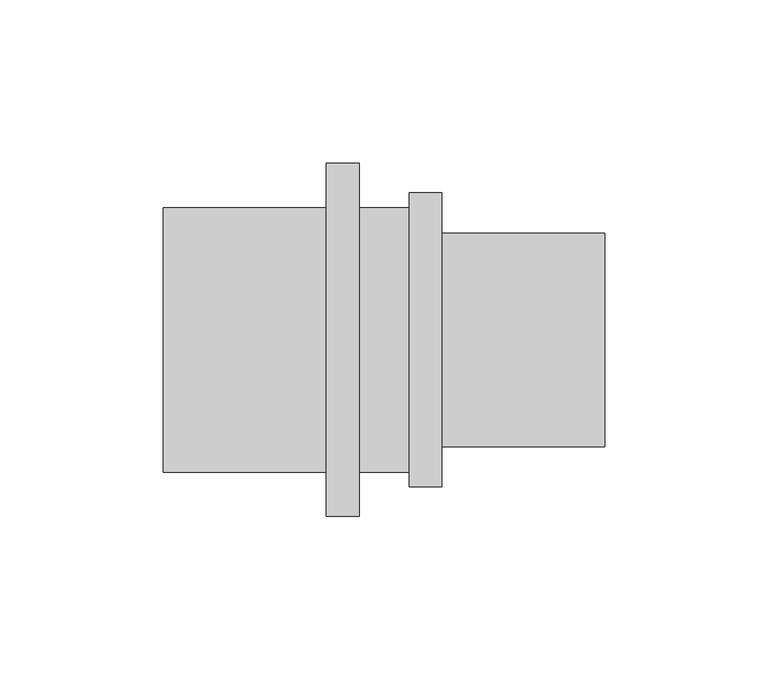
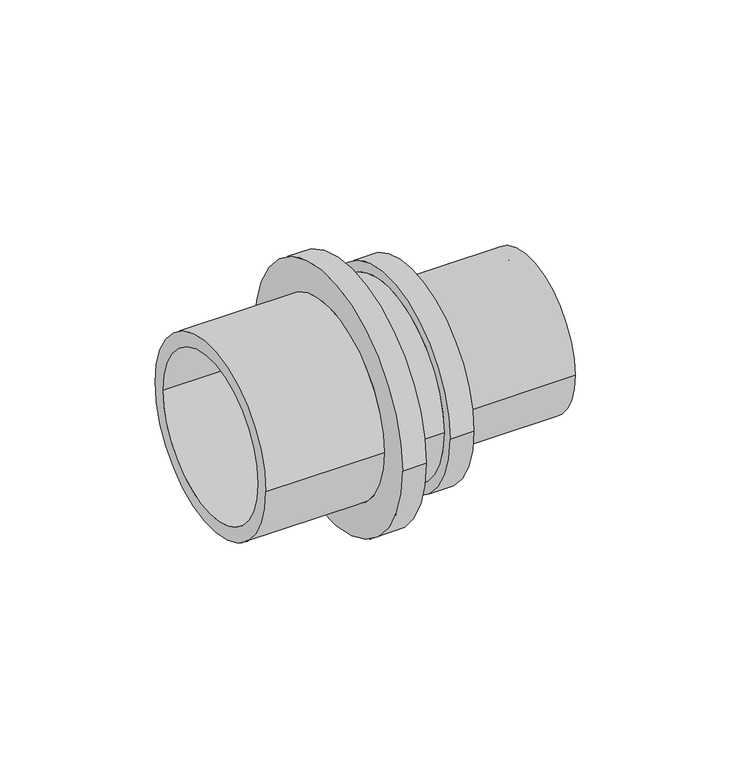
"""IFC4 building model written with IfcOpenShell, lengths in millimetres: pipe fitting geometry, Coupling transistion : C RE SDR11 RX."""

from ifc_helpers import new_model, si_unit, frame, origin, place, context, project, spatial, polyline, circle_curve, source, transform, mapped, element, save
from ifc_brep_helpers import plane_surface, cylinder_surface, revolved_surface, advanced_brep


def pipe_fitting_98be0705(model_context):
    return source(origin(), model_context, "Body", "AdvancedBrep", [
        advanced_brep(
        [(-17.1, 40.5, 0.0), (-17.1, -40.5, 0.0), (-67.0, -40.5, 0.0), (-67.0, 40.5, 0.0), (-7.1, 54.0, 0.0), (-7.1, -54.0, 0.0), (-17.1, -54.0, 0.0), (-17.1, 54.0, 0.0), (8.2, 40.5, 0.0), (8.2, -40.5, 0.0), (-7.1, -40.5, 0.0), (-7.1, 40.5, 0.0), (18.2, 45.0, 0.0), (18.2, -45.0, 0.0), (8.2, -45.0, 0.0), (8.2, 45.0, 0.0), (68.0, 32.7, 0.0), (68.0, -32.7, 0.0), (18.2, -32.7, 0.0), (18.2, 32.7, 0.0), (0.0, 27.0, 0.0), (0.0, -27.0, 0.0), (68.0, -27.0, 0.0), (68.0, 27.0, 0.0), (-67.0, 34.5, 0.0), (-67.0, -34.5, 0.0), (0.0, -34.5, 0.0), (0.0, 34.5, 0.0)],
        [
            (0, 1, circle_curve(frame((-17.1, 0.0, 0.0), z_axis=(-1.0, 0.0, 0.0), x_axis=(0.0, -1.0, 0.0)), 40.5)),
            (1, 2),
            (2, 3, circle_curve(frame((-67.0, 0.0, 0.0), z_axis=(1.0, 0.0, 0.0), x_axis=(0.0, -1.0, 0.0)), 40.5)),
            (3, 0),
            (4, 5, circle_curve(frame((-7.1, 0.0, 0.0), z_axis=(-1.0, 0.0, 0.0), x_axis=(0.0, -1.0, 0.0)), 54.0)),
            (5, 6),
            (6, 7, circle_curve(frame((-17.1, 0.0, 0.0), z_axis=(1.0, 0.0, 0.0), x_axis=(0.0, -1.0, 0.0)), 54.0)),
            (7, 4),
            (8, 9, circle_curve(frame((8.2, 0.0, 0.0), z_axis=(-1.0, 0.0, 0.0), x_axis=(0.0, -1.0, 0.0)), 40.5)),
            (9, 10),
            (10, 11, circle_curve(frame((-7.1, 0.0, 0.0), z_axis=(1.0, 0.0, 0.0), x_axis=(0.0, -1.0, 0.0)), 40.5)),
            (11, 8),
            (12, 13, circle_curve(frame((18.2, 0.0, 0.0), z_axis=(-1.0, 0.0, 0.0), x_axis=(0.0, -1.0, 0.0)), 45.0)),
            (13, 14),
            (14, 15, circle_curve(frame((8.2, 0.0, 0.0), z_axis=(1.0, 0.0, 0.0), x_axis=(0.0, -1.0, 0.0)), 45.0)),
            (15, 12),
            (16, 17, circle_curve(frame((68.0, 0.0, 0.0), z_axis=(-1.0, 0.0, 0.0), x_axis=(0.0, -1.0, 0.0)), 32.7)),
            (17, 18),
            (18, 19, circle_curve(frame((18.2, 0.0, 0.0), z_axis=(1.0, 0.0, 0.0), x_axis=(0.0, -1.0, 0.0)), 32.7)),
            (19, 16),
            (20, 21, circle_curve(frame((0.0, 0.0, 0.0), z_axis=(-1.0, 0.0, 0.0), x_axis=(0.0, -1.0, 0.0)), 27.0)),
            (21, 22),
            (22, 23, circle_curve(frame((68.0, 0.0, 0.0), z_axis=(1.0, 0.0, 0.0), x_axis=(0.0, -1.0, 0.0)), 27.0)),
            (23, 20),
            (24, 25, circle_curve(frame((-67.0, 0.0, 0.0), z_axis=(-1.0, 0.0, 0.0), x_axis=(0.0, -1.0, 0.0)), 34.5)),
            (25, 26),
            (26, 27, circle_curve(frame((0.0, 0.0, 0.0), z_axis=(1.0, 0.0, 0.0), x_axis=(0.0, -1.0, 0.0)), 34.5)),
            (27, 24),
            (2, 3, circle_curve(frame((-67.0, 0.0, 0.0), z_axis=(-1.0, 0.0, 0.0), x_axis=(0.0, 1.0, 0.0)), 40.5)),
            (24, 25, circle_curve(frame((-67.0, 0.0, 0.0), z_axis=(1.0, 0.0, 0.0), x_axis=(0.0, 1.0, 0.0)), 34.5)),
            (1, 0, circle_curve(frame((-17.1, 0.0, 0.0), z_axis=(-1.0, 0.0, 0.0), x_axis=(0.0, 1.0, 0.0)), 40.5)),
            (6, 7, circle_curve(frame((-17.1, 0.0, 0.0), z_axis=(-1.0, 0.0, 0.0), x_axis=(0.0, 1.0, 0.0)), 54.0)),
            (5, 4, circle_curve(frame((-7.1, 0.0, 0.0), z_axis=(-1.0, 0.0, 0.0), x_axis=(0.0, 1.0, 0.0)), 54.0)),
            (10, 11, circle_curve(frame((-7.1, 0.0, 0.0), z_axis=(-1.0, 0.0, 0.0), x_axis=(0.0, 1.0, 0.0)), 40.5)),
            (9, 8, circle_curve(frame((8.2, 0.0, 0.0), z_axis=(-1.0, 0.0, 0.0), x_axis=(0.0, 1.0, 0.0)), 40.5)),
            (14, 15, circle_curve(frame((8.2, 0.0, 0.0), z_axis=(-1.0, 0.0, 0.0), x_axis=(0.0, 1.0, 0.0)), 45.0)),
            (13, 12, circle_curve(frame((18.2, 0.0, 0.0), z_axis=(-1.0, 0.0, 0.0), x_axis=(0.0, 1.0, 0.0)), 45.0)),
            (18, 19, circle_curve(frame((18.2, 0.0, 0.0), z_axis=(-1.0, 0.0, 0.0), x_axis=(0.0, 1.0, 0.0)), 32.7)),
            (17, 16, circle_curve(frame((68.0, 0.0, 0.0), z_axis=(-1.0, 0.0, 0.0), x_axis=(0.0, 1.0, 0.0)), 32.7)),
            (22, 23, circle_curve(frame((68.0, 0.0, 0.0), z_axis=(-1.0, 0.0, 0.0), x_axis=(0.0, 1.0, 0.0)), 27.0)),
            (21, 20, circle_curve(frame((0.0, 0.0, 0.0), z_axis=(-1.0, 0.0, 0.0), x_axis=(0.0, 1.0, 0.0)), 27.0)),
            (26, 27, circle_curve(frame((0.0, 0.0, 0.0), z_axis=(-1.0, 0.0, 0.0), x_axis=(0.0, 1.0, 0.0)), 34.5)),
        ],
        [
            cylinder_surface(frame((0.0, 0.0, 0.0), z_axis=(1.0, 0.0, 0.0), x_axis=(0.0, -1.0, 0.0)), 40.5),
            cylinder_surface(frame((0.0, 0.0, 0.0), z_axis=(1.0, 0.0, 0.0), x_axis=(0.0, -1.0, 0.0)), 54.0),
            cylinder_surface(frame((0.0, 0.0, 0.0), z_axis=(1.0, 0.0, 0.0), x_axis=(0.0, -1.0, 0.0)), 45.0),
            cylinder_surface(frame((0.0, 0.0, 0.0), z_axis=(1.0, 0.0, 0.0), x_axis=(0.0, -1.0, 0.0)), 32.7),
            revolved_surface(polyline([(68.0, -27.0, 0.0), (0.0, -27.0, 0.0)]), (0.0, 0.0, 0.0), (1.0, 0.0, 0.0)),
            revolved_surface(polyline([(0.0, -34.5, 0.0), (-67.0, -34.5, 0.0)]), (0.0, 0.0, 0.0), (1.0, 0.0, 0.0)),
            plane_surface(frame((-67.0, 0.0, 0.0), z_axis=(-1.0, 0.0, 0.0), x_axis=(0.0, 1.0, 0.0))),
            cylinder_surface(frame((0.0, 0.0, 0.0), z_axis=(1.0, 0.0, 0.0), x_axis=(0.0, 1.0, 0.0)), 40.5),
            plane_surface(frame((-17.1, 0.0, 0.0), z_axis=(-1.0, 0.0, 0.0), x_axis=(0.0, 1.0, 0.0))),
            cylinder_surface(frame((0.0, 0.0, 0.0), z_axis=(1.0, 0.0, 0.0), x_axis=(0.0, 1.0, 0.0)), 54.0),
            plane_surface(frame((-7.1, 0.0, 0.0), z_axis=(1.0, 0.0, 0.0), x_axis=(0.0, 1.0, 0.0))),
            plane_surface(frame((8.2, 0.0, 0.0), z_axis=(-1.0, 0.0, 0.0), x_axis=(0.0, 1.0, 0.0))),
            cylinder_surface(frame((0.0, 0.0, 0.0), z_axis=(1.0, 0.0, 0.0), x_axis=(0.0, 1.0, 0.0)), 45.0),
            plane_surface(frame((18.2, 0.0, 0.0), z_axis=(1.0, 0.0, 0.0), x_axis=(0.0, 1.0, 0.0))),
            cylinder_surface(frame((0.0, 0.0, 0.0), z_axis=(1.0, 0.0, 0.0), x_axis=(0.0, 1.0, 0.0)), 32.7),
            plane_surface(frame((68.0, 0.0, 0.0), z_axis=(1.0, 0.0, 0.0), x_axis=(0.0, 1.0, 0.0))),
            revolved_surface(polyline([(68.0, 27.0, 0.0), (0.0, 27.0, 0.0)]), (0.0, 0.0, 0.0), (1.0, 0.0, 0.0)),
            plane_surface(frame((0.0, 0.0, 0.0), z_axis=(-1.0, 0.0, 0.0), x_axis=(0.0, 1.0, 0.0))),
            revolved_surface(polyline([(0.0, 34.5, 0.0), (-67.0, 34.5, 0.0)]), (0.0, 0.0, 0.0), (1.0, 0.0, 0.0)),
        ],
        [
            (0, [[1, 2, 3, 4]]),
            (1, [[5, 6, 7, 8]]),
            (0, [[9, 10, 11, 12]]),
            (2, [[13, 14, 15, 16]]),
            (3, [[17, 18, 19, 20]]),
            (4, [[21, 22, 23, 24]]),
            (5, [[25, 26, 27, 28]]),
            (6, [[29, -3], [30, -25]]),
            (7, [[31, -4, -29, -2]]),
            (8, [[32, -7], [-31, -1]]),
            (9, [[33, -8, -32, -6]]),
            (10, [[-33, -5], [34, -11]]),
            (7, [[35, -12, -34, -10]]),
            (11, [[36, -15], [-35, -9]]),
            (12, [[37, -16, -36, -14]]),
            (13, [[-37, -13], [38, -19]]),
            (14, [[39, -20, -38, -18]]),
            (15, [[-39, -17], [40, -23]]),
            (16, [[41, -24, -40, -22]]),
            (17, [[42, -27], [-41, -21]]),
            (18, [[-30, -28, -42, -26]]),
        ],
    ),
    ])


if __name__ == "__main__":
    model = new_model("IFC4")
    model_context = context("Model", 3, world=origin())
    ifc_project = project(units=[si_unit("LENGTHUNIT", "METRE", prefix="MILLI")], contexts=[model_context])
    site = spatial("IfcSite", under=ifc_project)
    building = spatial("IfcBuilding", under=site)
    placement = place(None, origin())
    pipe_fitting_shape = pipe_fitting_98be0705(model_context)
    element("IfcPipeFitting", 1, ObjectType="Coupling transistion : C RE SDR11 RX", at=placement, inside=building, context=model_context, shape_type="MappedRepresentation", body=[
        mapped(pipe_fitting_shape, transform((0.0, 0.0, 0.0), x_axis=(1.0, 0.0, 0.0), y_axis=(0.0, 1.0, 0.0), z_axis=(0.0, 0.0, 1.0))),
    ])
    save(model, "model.ifc")
